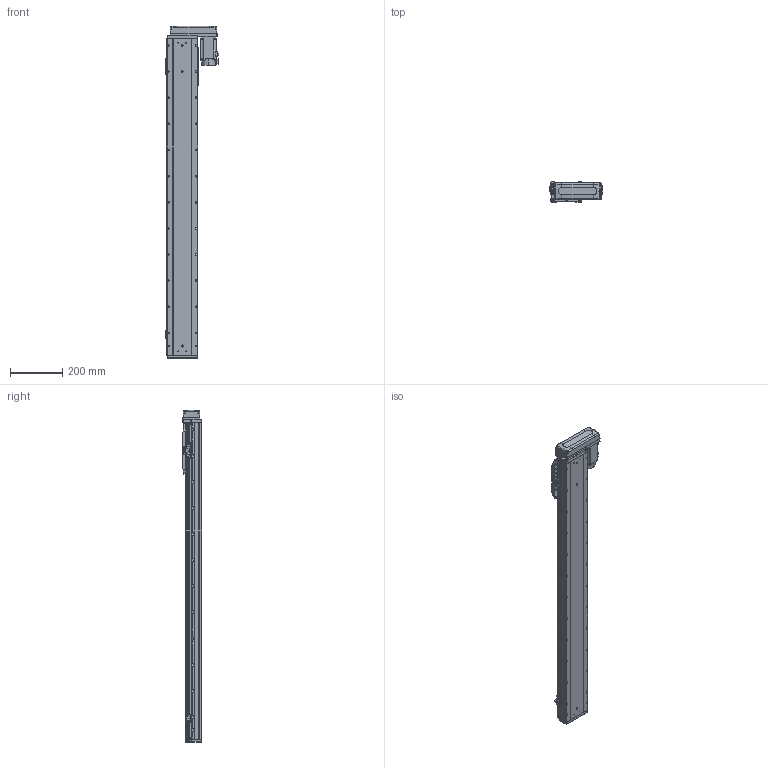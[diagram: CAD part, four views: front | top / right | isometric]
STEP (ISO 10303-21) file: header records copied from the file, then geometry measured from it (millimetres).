
FILE_DESCRIPTION (( 'STEP AP203' ), '1' );
FILE_NAME ('GTH12-1000-BL-M40-C4.step', '2025-07-16T03:39:59', ( '' ), ( '' ), 'SwSTEP 2.0', 'SolidWorks 2023', '' );
FILE_SCHEMA (( 'CONFIG_CONTROL_DESIGN' ));
Length unit declared in the file: millimetre
Products named in the file (17): GTH120-006; hg-kn43j_-s100_; GTH80-022; GTH120-003; CTHA86-033_M40B; GBT 70.1-M5×16; GTH120-013; BTH-M3X5X6; 感应器总成右; GBT 70.1-M3×6; GTH12-1000-BL-M40-C4; GBT 70.3-M3×8; GTH120-027-1_GTH120-027-2; GTH120-004; GTH80-028; 感应器总成左; GTH120-001_1000
Assembly tree (38 placements, depth 2):
  GTH12-1000-BL-M40-C4
    GTH120-001_1000
    GTH120-003
    GTH120-006
    GTH120-004
    GTH120-013
    GBT 70.1-M3×6  x2
    GBT 70.1-M5×16  x10
    GBT 70.3-M3×8  x4
    GTH80-022
    GTH80-028  x2
    BTH-M3X5X6  x8
    hg-kn43j_-s100_
    CTHA86-033_M40B
    GTH120-027-1_GTH120-027-2
    感应器总成右  x2
    感应器总成左
Bounding box: 203.5 x 76 x 1270.5 mm (x, y, z)
Volume: 9133721.4 mm3; surface area: 785311.9 mm2
Topology: 55 solids, 55 shells, 2497 faces, 5894 edges, 3633 vertices
Faces by surface type: plane 1260, cylinder 741, cone 320, torus 162, sphere 8, bspline 6
Entity records: 55652 total; most frequent: CARTESIAN_POINT 9522, DIRECTION 9453, ORIENTED_EDGE 8780, EDGE_CURVE 4390, AXIS2_PLACEMENT_3D 3297, VECTOR 2859, LINE 2859, VERTEX_POINT 2766
